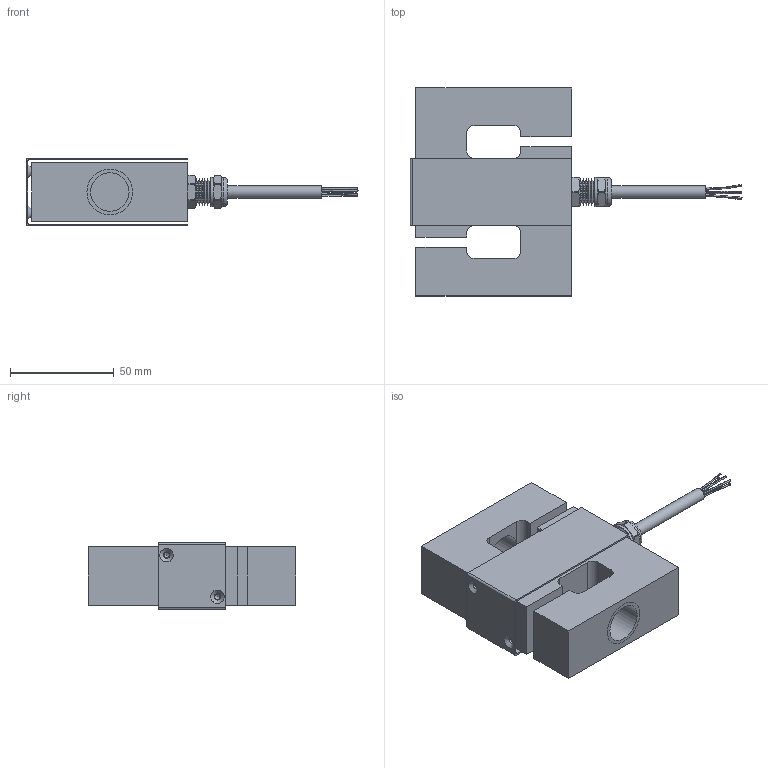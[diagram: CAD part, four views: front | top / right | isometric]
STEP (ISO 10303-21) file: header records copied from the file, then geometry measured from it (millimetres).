
FILE_DESCRIPTION(/* description */ (''),/* implementation_level */ '2;1');
FILE_NAME(/* name */ 'F:/Flintec Files/Working/UXT potential cad error/Final/0082476 UXT 2000kg.step',/* time_stamp */ '2021-02-04T11:48:48+00:00',/* author */ (''),/* organization */ (''),/* preprocessor_version */ 'ST-DEVELOPER v18.1',/* originating_system */ 'Autodesk Translation Framework v9.7.1.1290',/* authorisation */ '');
FILE_SCHEMA (('AUTOMOTIVE_DESIGN { 1 0 10303 214 3 1 1 }'));
Length unit declared in the file: millimetre
Products named in the file (5): 0082476; 0042350; 0080119; 0084559; Component8
Assembly tree (4 placements, depth 2):
  0082476
    0042350
    0080119
    0084559
    Component8
Bounding box: 159.68 x 100 x 32.52 mm (x, y, z)
Volume: 179493.7 mm3; surface area: 47015.3 mm2
Topology: 5 solids, 5 shells, 606 faces, 1366 edges, 900 vertices
Faces by surface type: plane 257, bspline 160, cylinder 137, cone 49, torus 3
Full cylindrical faces by diameter (mm): 0.5 x99, 2.5 x2, 3.1 x2, 6 x1, 7.62 x2, 11.316 x2, 12.695 x1, 13.97 x2, 18.5 x2
Entity records: 23369 total; most frequent: CARTESIAN_POINT 10419, ORIENTED_EDGE 2728, DIRECTION 2313, EDGE_CURVE 1364, VERTEX_POINT 900, AXIS2_PLACEMENT_3D 832, EDGE_LOOP 750, LINE 649
